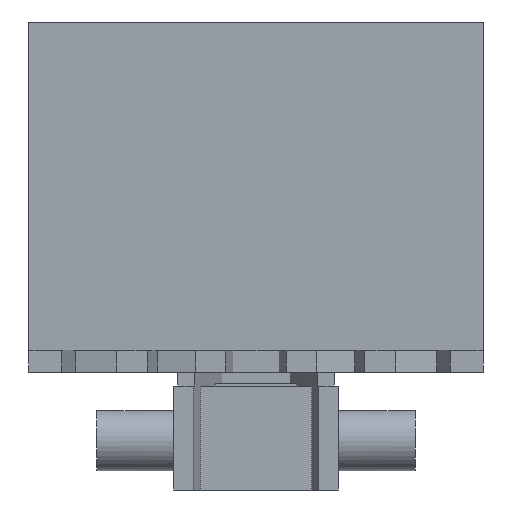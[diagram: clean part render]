
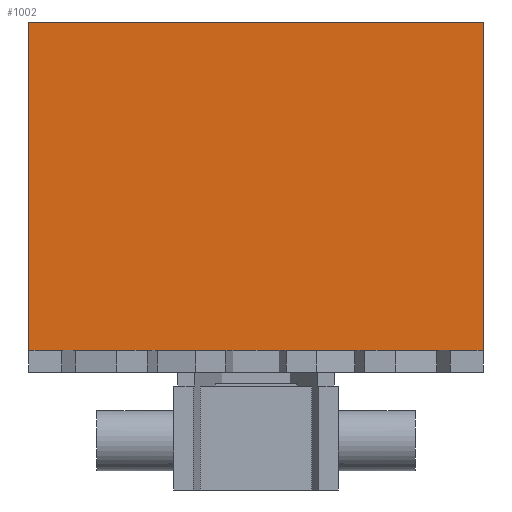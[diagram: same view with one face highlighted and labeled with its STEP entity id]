
A CAD part, left-side view. The second image highlights one B-rep face of the part: STEP entity #1002.
In plain terms, the highlighted planar face has unit normal (-1, 0, 0).
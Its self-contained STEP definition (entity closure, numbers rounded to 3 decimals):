
#75 = LINE ( 'NONE', #752, #3841 ) ;
#129 = VECTOR ( 'NONE', #3640, 1000. ) ;
#161 = CARTESIAN_POINT ( 'NONE',  ( -9.252, -41.5, 102.5 ) ) ;
#177 = VERTEX_POINT ( 'NONE', #559 ) ;
#304 = EDGE_LOOP ( 'NONE', ( #2493, #2911, #3534, #3312, #3242, #1897, #618, #544 ) ) ;
#321 = LINE ( 'NONE', #2133, #3661 ) ;
#336 = CARTESIAN_POINT ( 'NONE',  ( -9.252, -33.052, 42.5 ) ) ;
#349 = VECTOR ( 'NONE', #3015, 1000. ) ;
#425 = CARTESIAN_POINT ( 'NONE',  ( -9.252, -33.013, 42.5 ) ) ;
#490 = VERTEX_POINT ( 'NONE', #425 ) ;
#544 = ORIENTED_EDGE ( 'NONE', *, *, #1164, .T. ) ;
#559 = CARTESIAN_POINT ( 'NONE',  ( -9.252, 41.5, 102.5 ) ) ;
#618 = ORIENTED_EDGE ( 'NONE', *, *, #1484, .T. ) ;
#659 = DIRECTION ( 'NONE',  ( 0., -1., 0. ) ) ;
#752 = CARTESIAN_POINT ( 'NONE',  ( -9.252, -41.5, 42.5 ) ) ;
#942 = CARTESIAN_POINT ( 'NONE',  ( -9.252, -41.5, 102.5 ) ) ;
#955 = LINE ( 'NONE', #3053, #1154 ) ;
#1002 = ADVANCED_FACE ( 'NONE', ( #1980 ), #3140, .F. ) ;
#1088 = DIRECTION ( 'NONE',  ( 0., 0., -1. ) ) ;
#1154 = VECTOR ( 'NONE', #2734, 1000. ) ;
#1164 = EDGE_CURVE ( 'NONE', #2008, #2531, #321, .T. ) ;
#1265 = LINE ( 'NONE', #2741, #129 ) ;
#1333 = EDGE_CURVE ( 'NONE', #177, #3606, #1265, .T. ) ;
#1357 = DIRECTION ( 'NONE',  ( 0., 1., 0. ) ) ;
#1361 = VECTOR ( 'NONE', #659, 1000. ) ;
#1395 = DIRECTION ( 'NONE',  ( 1., 0., 0. ) ) ;
#1484 = EDGE_CURVE ( 'NONE', #3343, #2008, #75, .T. ) ;
#1539 = EDGE_CURVE ( 'NONE', #3606, #1616, #3518, .T. ) ;
#1616 = VERTEX_POINT ( 'NONE', #1790 ) ;
#1643 = CARTESIAN_POINT ( 'NONE',  ( -9.252, 41.5, 42.5 ) ) ;
#1790 = CARTESIAN_POINT ( 'NONE',  ( -9.252, -41.5, 42.5 ) ) ;
#1826 = EDGE_CURVE ( 'NONE', #2531, #490, #2298, .T. ) ;
#1888 = EDGE_CURVE ( 'NONE', #2358, #1616, #2017, .T. ) ;
#1897 = ORIENTED_EDGE ( 'NONE', *, *, #3586, .T. ) ;
#1905 = CARTESIAN_POINT ( 'NONE',  ( -9.252, -41.5, 42.5 ) ) ;
#1913 = DIRECTION ( 'NONE',  ( 0., -1., 0. ) ) ;
#1980 = FACE_OUTER_BOUND ( 'NONE', #304, .T. ) ;
#2008 = VERTEX_POINT ( 'NONE', #3411 ) ;
#2017 = LINE ( 'NONE', #3452, #2074 ) ;
#2074 = VECTOR ( 'NONE', #1913, 1000. ) ;
#2133 = CARTESIAN_POINT ( 'NONE',  ( -9.252, -41.5, 42.5 ) ) ;
#2236 = LINE ( 'NONE', #3663, #349 ) ;
#2295 = DIRECTION ( 'NONE',  ( 0., -1., 0. ) ) ;
#2298 = LINE ( 'NONE', #1905, #1361 ) ;
#2358 = VERTEX_POINT ( 'NONE', #336 ) ;
#2418 = DIRECTION ( 'NONE',  ( 0., -1., 0. ) ) ;
#2493 = ORIENTED_EDGE ( 'NONE', *, *, #1826, .T. ) ;
#2531 = VERTEX_POINT ( 'NONE', #2772 ) ;
#2577 = CARTESIAN_POINT ( 'NONE',  ( -9.252, -41.5, 102.5 ) ) ;
#2619 = VECTOR ( 'NONE', #1088, 1000. ) ;
#2734 = DIRECTION ( 'NONE',  ( 0., 0., -1. ) ) ;
#2741 = CARTESIAN_POINT ( 'NONE',  ( -9.252, -41.5, 102.5 ) ) ;
#2772 = CARTESIAN_POINT ( 'NONE',  ( -9.252, 33.013, 42.5 ) ) ;
#2911 = ORIENTED_EDGE ( 'NONE', *, *, #3544, .T. ) ;
#3015 = DIRECTION ( 'NONE',  ( 0., -1., 0. ) ) ;
#3053 = CARTESIAN_POINT ( 'NONE',  ( -9.252, 41.5, 102.5 ) ) ;
#3140 = PLANE ( 'NONE',  #3552 ) ;
#3242 = ORIENTED_EDGE ( 'NONE', *, *, #1333, .F. ) ;
#3312 = ORIENTED_EDGE ( 'NONE', *, *, #1539, .F. ) ;
#3343 = VERTEX_POINT ( 'NONE', #1643 ) ;
#3411 = CARTESIAN_POINT ( 'NONE',  ( -9.252, 33.052, 42.5 ) ) ;
#3452 = CARTESIAN_POINT ( 'NONE',  ( -9.252, -41.5, 42.5 ) ) ;
#3518 = LINE ( 'NONE', #2577, #2619 ) ;
#3534 = ORIENTED_EDGE ( 'NONE', *, *, #1888, .T. ) ;
#3544 = EDGE_CURVE ( 'NONE', #490, #2358, #2236, .T. ) ;
#3552 = AXIS2_PLACEMENT_3D ( 'NONE', #161, #1395, #1357 ) ;
#3586 = EDGE_CURVE ( 'NONE', #177, #3343, #955, .T. ) ;
#3606 = VERTEX_POINT ( 'NONE', #942 ) ;
#3640 = DIRECTION ( 'NONE',  ( 0., -1., 0. ) ) ;
#3661 = VECTOR ( 'NONE', #2418, 1000. ) ;
#3663 = CARTESIAN_POINT ( 'NONE',  ( -9.252, -41.5, 42.5 ) ) ;
#3841 = VECTOR ( 'NONE', #2295, 1000. ) ;
